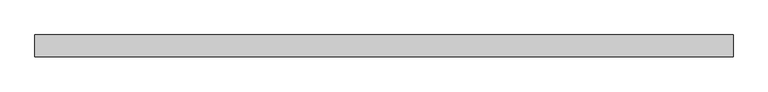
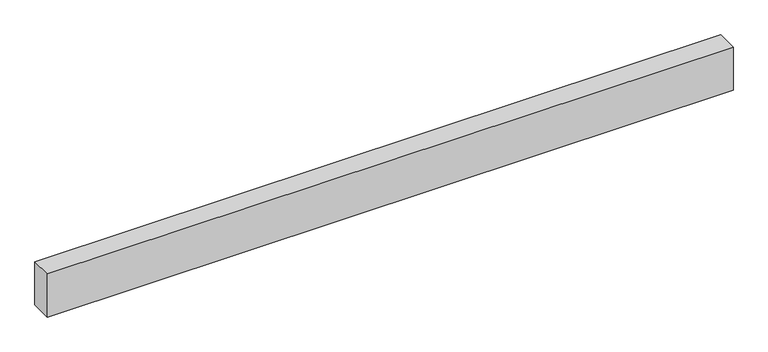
"""IFC4 building model written with IfcOpenShell, lengths in millimetres: proxy geometry."""

from ifc_helpers import new_model, si_unit, frame, origin, place, context, project, spatial, polyline, outline, extrude, source, transform, mapped, element, save


def structural_framing_e2bcf46b(model_context):
    return source(origin(), model_context, "Body", "SweptSolid", [
        extrude(outline(polyline([(-2247.75, -70.0), (-2247.75, 70.0), (2247.75, 70.0), (2247.75, -70.0), (-2247.75, -70.0)])), frame((0.0, 0.0, -300.0), z_axis=(0.0, 0.0, 1.0), x_axis=(1.0, 0.0, 0.0)), (0.0, 0.0, 1.0), 300.0),
    ])


if __name__ == "__main__":
    model = new_model("IFC4")
    model_context = context("Model", 3, world=origin())
    ifc_project = project(units=[si_unit("LENGTHUNIT", "METRE", prefix="MILLI")], contexts=[model_context])
    site = spatial("IfcSite", under=ifc_project)
    building = spatial("IfcBuilding", under=site)
    placement = place(None, origin())
    structural_framing_shape = structural_framing_e2bcf46b(model_context)
    element("IfcBuildingElementProxy", 1, Name="Structural Framing", at=placement, inside=building, context=model_context, shape_type="MappedRepresentation", body=[
        mapped(structural_framing_shape, transform((0.0, 0.0, 0.0), x_axis=(1.0, 0.0, 0.0), y_axis=(0.0, 1.0, 0.0), z_axis=(0.0, 0.0, 1.0))),
    ])
    save(model, "model.ifc")
